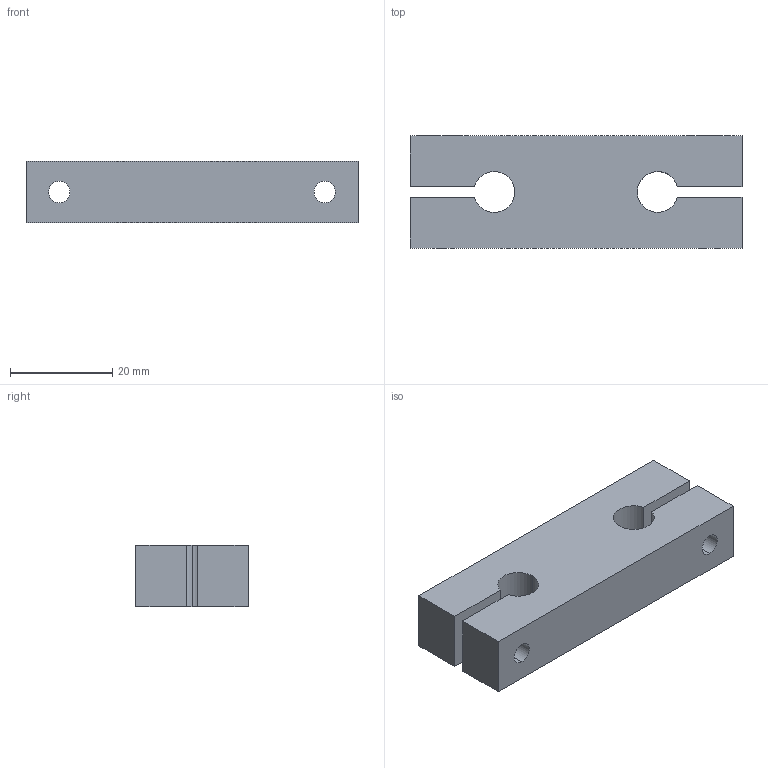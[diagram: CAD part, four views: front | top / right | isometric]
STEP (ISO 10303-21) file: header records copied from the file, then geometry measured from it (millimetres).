
FILE_DESCRIPTION (( 'STEP AP214' ), '1' );
FILE_NAME ('KTB-08.step', '2020-03-04T13:38:16', ( '' ), ( '' ), 'SwSTEP 2.0', 'SolidWorks 2019', '' );
FILE_SCHEMA (( 'AUTOMOTIVE_DESIGN' ));
Length unit declared in the file: millimetre
Products named in the file (1): KTB-08
Bounding box: 65 x 22 x 12 mm (x, y, z)
Volume: 13737.4 mm3; surface area: 6431.6 mm2
Topology: 1 solids, 1 shells, 41 faces, 101 edges, 65 vertices
Faces by surface type: cylinder 21, plane 16, cone 4
Entity records: 1307 total; most frequent: DIRECTION 227, CARTESIAN_POINT 206, ORIENTED_EDGE 198, EDGE_CURVE 99, AXIS2_PLACEMENT_3D 86, VERTEX_POINT 65, VECTOR 55, LINE 55
